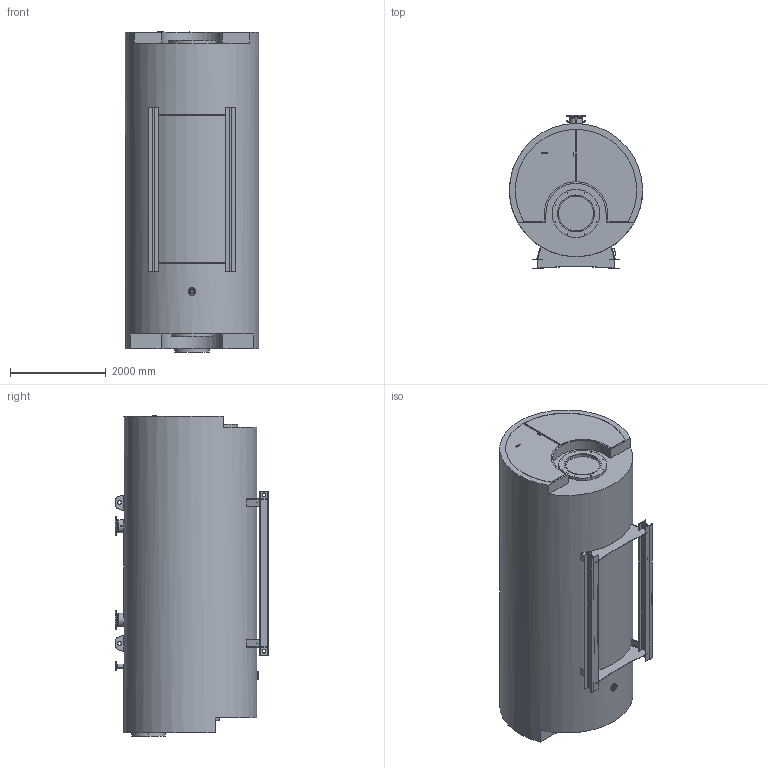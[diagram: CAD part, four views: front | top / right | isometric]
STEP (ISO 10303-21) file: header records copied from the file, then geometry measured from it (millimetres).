
FILE_DESCRIPTION(('TFLEX Exchange Step'),'2;1');
FILE_NAME('M62D029_7550664_H001.stp', '2024-08-09T14:16:06+03:00',('kort'),('Unknown organisation'),'TFLEX Exchange 2024.2','T-FLEX CAD','Unknown authorisation');
FILE_SCHEMA( ('AP242_MANAGED_MODEL_BASED_3D_ENGINEERING_MIM_LF {1 0 10303 442 1 1 4 }') );
Length unit declared in the file: millimetre
Products named in the file (1): 7550664_Grundkessel M62D029_RD_H001
Bounding box: 2778.97 x 3205 x 6684.2 mm (x, y, z)
Volume: 38908612966.6 mm3; surface area: 82363010.7 mm2
Topology: 35 solids, 35 shells, 599 faces, 1574 edges, 1087 vertices
Faces by surface type: plane 346, cylinder 156, bspline 78, torus 12, cone 7
Full cylindrical faces by diameter (mm): 2.2 x4, 3.2 x4, 3.3 x4, 4 x4, 6.5 x4, 13 x4, 14 x8, 18 x12, 18.63 x2, 26 x24, 26.9 x2, 28.9 x2, 54.5 x1, 78.9 x1, 80 x6, 82.5 x1, 88.9 x1, 102 x1, 138 x1, 141 x1, 165 x1, 200 x1, 257 x2, 260.4 x2, 273 x2, 320 x2, 405 x2, 860 x1, 1000 x1, 2779 x1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
Entity records: 26910 total; most frequent: CARTESIAN_POINT 11471, ORIENTED_EDGE 3148, DIRECTION 2893, EDGE_CURVE 1574, VERTEX_POINT 1087, AXIS2_PLACEMENT_3D 983, VECTOR 927, LINE 927
